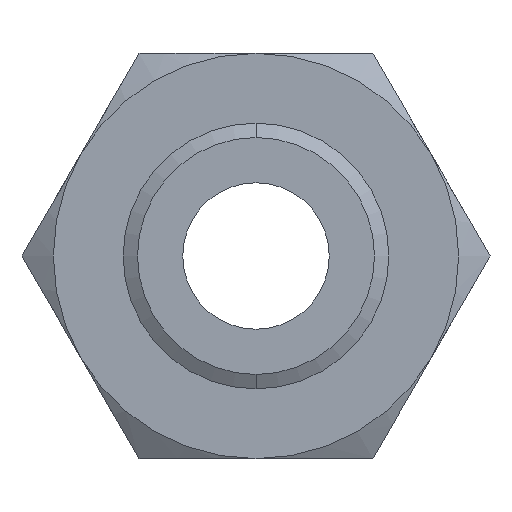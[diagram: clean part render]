
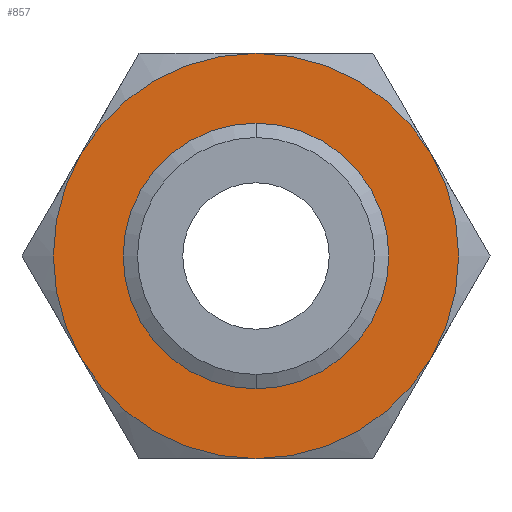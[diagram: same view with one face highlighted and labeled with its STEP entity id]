
A CAD part, front view. The second image highlights one B-rep face of the part: STEP entity #857.
In plain terms, the highlighted planar face has unit normal (0, -1, 0).
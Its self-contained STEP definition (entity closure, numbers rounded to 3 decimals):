
#86 = ORIENTED_EDGE ( 'NONE', *, *, #87, .F. ) ;
#87 = EDGE_CURVE ( 'NONE', #865, #878, #496, .T. ) ;
#88 = VERTEX_POINT ( 'NONE', #491 ) ;
#89 = ORIENTED_EDGE ( 'NONE', *, *, #897, .F. ) ;
#90 = ORIENTED_EDGE ( 'NONE', *, *, #91, .F. ) ;
#91 = EDGE_CURVE ( 'NONE', #88, #865, #490, .T. ) ;
#92 = EDGE_LOOP ( 'NONE', ( #217, #218 ) ) ;
#93 = VERTEX_POINT ( 'NONE', #485 ) ;
#94 = ORIENTED_EDGE ( 'NONE', *, *, #901, .F. ) ;
#95 = ORIENTED_EDGE ( 'NONE', *, *, #902, .F. ) ;
#96 = VERTEX_POINT ( 'NONE', #484 ) ;
#179 = EDGE_CURVE ( 'NONE', #180, #181, #696, .T. ) ;
#180 = VERTEX_POINT ( 'NONE', #691 ) ;
#181 = VERTEX_POINT ( 'NONE', #690 ) ;
#217 = ORIENTED_EDGE ( 'NONE', *, *, #179, .F. ) ;
#218 = ORIENTED_EDGE ( 'NONE', *, *, #219, .F. ) ;
#219 = EDGE_CURVE ( 'NONE', #181, #180, #741, .T. ) ;
#484 = CARTESIAN_POINT ( 'NONE',  ( 0., 0., 77.5 ) ) ;
#485 = CARTESIAN_POINT ( 'NONE',  ( -67.117, 0., 38.75 ) ) ;
#486 = DIRECTION ( 'NONE',  ( 0., 0., 1. ) ) ;
#487 = DIRECTION ( 'NONE',  ( 0., 1., 0. ) ) ;
#488 = CARTESIAN_POINT ( 'NONE',  ( 0., 0., 0. ) ) ;
#489 = AXIS2_PLACEMENT_3D ( 'NONE', #488, #487, #486 ) ;
#490 = CIRCLE ( 'NONE', #489, 77.5 ) ;
#491 = CARTESIAN_POINT ( 'NONE',  ( 67.117, 0., 38.75 ) ) ;
#492 = DIRECTION ( 'NONE',  ( 0., 0., 1. ) ) ;
#493 = DIRECTION ( 'NONE',  ( 0., 1., 0. ) ) ;
#494 = CARTESIAN_POINT ( 'NONE',  ( 0., 0., 0. ) ) ;
#495 = AXIS2_PLACEMENT_3D ( 'NONE', #494, #493, #492 ) ;
#496 = CIRCLE ( 'NONE', #495, 77.5 ) ;
#690 = CARTESIAN_POINT ( 'NONE',  ( 0., 0., 45.301 ) ) ;
#691 = CARTESIAN_POINT ( 'NONE',  ( 0., 0., -45.301 ) ) ;
#692 = DIRECTION ( 'NONE',  ( 0., 0., -1. ) ) ;
#693 = DIRECTION ( 'NONE',  ( 0., -1., 0. ) ) ;
#694 = CARTESIAN_POINT ( 'NONE',  ( 0., 0., 0. ) ) ;
#695 = AXIS2_PLACEMENT_3D ( 'NONE', #694, #693, #692 ) ;
#696 = CIRCLE ( 'NONE', #695, 45.301 ) ;
#737 = DIRECTION ( 'NONE',  ( 0., 0., -1. ) ) ;
#738 = DIRECTION ( 'NONE',  ( 0., -1., 0. ) ) ;
#739 = CARTESIAN_POINT ( 'NONE',  ( 0., 0., 0. ) ) ;
#740 = AXIS2_PLACEMENT_3D ( 'NONE', #739, #738, #737 ) ;
#741 = CIRCLE ( 'NONE', #740, 45.301 ) ;
#857 = ADVANCED_FACE ( 'NONE', ( #1325, #1324 ), #1323, .F. ) ;
#858 = EDGE_LOOP ( 'NONE', ( #94, #95, #895, #89, #86, #90 ) ) ;
#865 = VERTEX_POINT ( 'NONE', #1310 ) ;
#878 = VERTEX_POINT ( 'NONE', #1355 ) ;
#894 = VERTEX_POINT ( 'NONE', #1392 ) ;
#895 = ORIENTED_EDGE ( 'NONE', *, *, #898, .F. ) ;
#897 = EDGE_CURVE ( 'NONE', #878, #894, #1386, .T. ) ;
#898 = EDGE_CURVE ( 'NONE', #894, #93, #1381, .T. ) ;
#901 = EDGE_CURVE ( 'NONE', #96, #88, #1372, .T. ) ;
#902 = EDGE_CURVE ( 'NONE', #93, #96, #1367, .T. ) ;
#1310 = CARTESIAN_POINT ( 'NONE',  ( 67.117, 0., -38.75 ) ) ;
#1317 = DIRECTION ( 'NONE',  ( 0., 0., 1. ) ) ;
#1318 = DIRECTION ( 'NONE',  ( 0., 1., 0. ) ) ;
#1319 = CARTESIAN_POINT ( 'NONE',  ( 44.745, 0., -77.5 ) ) ;
#1322 = AXIS2_PLACEMENT_3D ( 'NONE', #1319, #1318, #1317 ) ;
#1323 = PLANE ( 'NONE',  #1322 ) ;
#1324 = FACE_BOUND ( 'NONE', #92, .T. ) ;
#1325 = FACE_OUTER_BOUND ( 'NONE', #858, .T. ) ;
#1355 = CARTESIAN_POINT ( 'NONE',  ( 0., 0., -77.5 ) ) ;
#1363 = DIRECTION ( 'NONE',  ( 0., 0., 1. ) ) ;
#1364 = DIRECTION ( 'NONE',  ( 0., 1., 0. ) ) ;
#1365 = CARTESIAN_POINT ( 'NONE',  ( 0., 0., 0. ) ) ;
#1366 = AXIS2_PLACEMENT_3D ( 'NONE', #1365, #1364, #1363 ) ;
#1367 = CIRCLE ( 'NONE', #1366, 77.5 ) ;
#1368 = DIRECTION ( 'NONE',  ( 0., 0., 1. ) ) ;
#1369 = DIRECTION ( 'NONE',  ( 0., 1., 0. ) ) ;
#1370 = CARTESIAN_POINT ( 'NONE',  ( 0., 0., 0. ) ) ;
#1371 = AXIS2_PLACEMENT_3D ( 'NONE', #1370, #1369, #1368 ) ;
#1372 = CIRCLE ( 'NONE', #1371, 77.5 ) ;
#1377 = DIRECTION ( 'NONE',  ( 0., 0., 1. ) ) ;
#1378 = DIRECTION ( 'NONE',  ( 0., 1., 0. ) ) ;
#1379 = CARTESIAN_POINT ( 'NONE',  ( 0., 0., 0. ) ) ;
#1380 = AXIS2_PLACEMENT_3D ( 'NONE', #1379, #1378, #1377 ) ;
#1381 = CIRCLE ( 'NONE', #1380, 77.5 ) ;
#1382 = DIRECTION ( 'NONE',  ( 0., 0., 1. ) ) ;
#1383 = DIRECTION ( 'NONE',  ( 0., 1., 0. ) ) ;
#1384 = CARTESIAN_POINT ( 'NONE',  ( 0., 0., 0. ) ) ;
#1385 = AXIS2_PLACEMENT_3D ( 'NONE', #1384, #1383, #1382 ) ;
#1386 = CIRCLE ( 'NONE', #1385, 77.5 ) ;
#1392 = CARTESIAN_POINT ( 'NONE',  ( -67.117, 0., -38.75 ) ) ;
